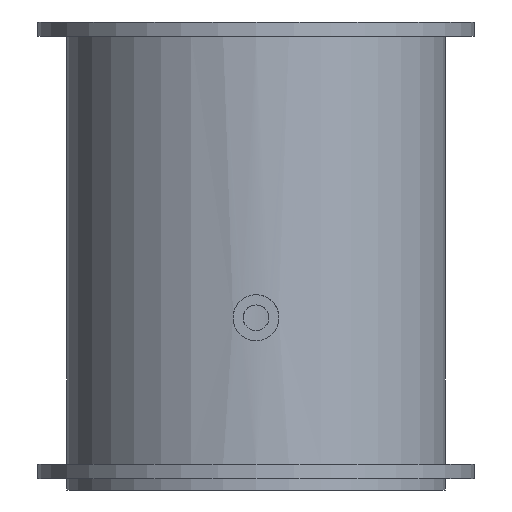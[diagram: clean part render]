
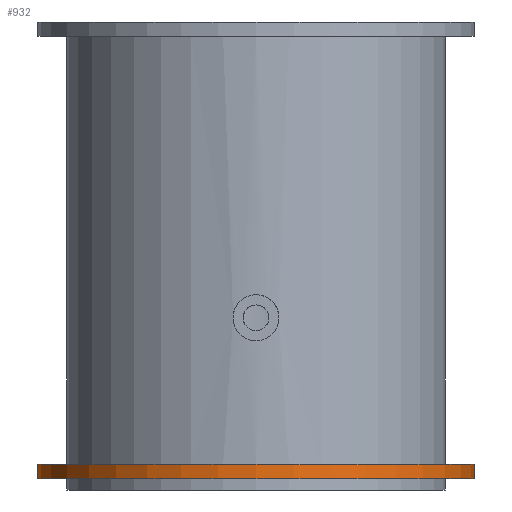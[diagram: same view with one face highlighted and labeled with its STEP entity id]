
A CAD part, front view. The second image highlights one B-rep face of the part: STEP entity #932.
In plain terms, the highlighted cylindrical face has radius 76 mm (diameter 152 mm), a full revolution.
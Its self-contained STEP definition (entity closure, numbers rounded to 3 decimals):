
#93 = PLANE('',#94);
#94 = AXIS2_PLACEMENT_3D('',#95,#96,#97);
#95 = CARTESIAN_POINT('',(0.,0.,44.));
#96 = DIRECTION('',(0.,0.,1.));
#97 = DIRECTION('',(1.,0.,-0.));
#148 = EDGE_CURVE('',#149,#149,#151,.T.);
#149 = VERTEX_POINT('',#150);
#150 = CARTESIAN_POINT('',(76.,0.,44.));
#151 = SURFACE_CURVE('',#152,(#157,#164),.PCURVE_S1.);
#152 = CIRCLE('',#153,76.);
#153 = AXIS2_PLACEMENT_3D('',#154,#155,#156);
#154 = CARTESIAN_POINT('',(0.,0.,44.));
#155 = DIRECTION('',(0.,0.,1.));
#156 = DIRECTION('',(1.,0.,0.));
#157 = PCURVE('',#93,#158);
#158 = DEFINITIONAL_REPRESENTATION('',(#159),#163);
#159 = CIRCLE('',#160,76.);
#160 = AXIS2_PLACEMENT_2D('',#161,#162);
#161 = CARTESIAN_POINT('',(0.,0.));
#162 = DIRECTION('',(1.,0.));
#163 = ( GEOMETRIC_REPRESENTATION_CONTEXT(2) 
PARAMETRIC_REPRESENTATION_CONTEXT() REPRESENTATION_CONTEXT('2D SPACE',''
  ) );
#164 = PCURVE('',#165,#170);
#165 = CYLINDRICAL_SURFACE('',#166,76.);
#166 = AXIS2_PLACEMENT_3D('',#167,#168,#169);
#167 = CARTESIAN_POINT('',(0.,0.,44.));
#168 = DIRECTION('',(-0.,-0.,-1.));
#169 = DIRECTION('',(1.,0.,0.));
#170 = DEFINITIONAL_REPRESENTATION('',(#171),#175);
#171 = LINE('',#172,#173);
#172 = CARTESIAN_POINT('',(-0.,0.));
#173 = VECTOR('',#174,1.);
#174 = DIRECTION('',(-1.,0.));
#175 = ( GEOMETRIC_REPRESENTATION_CONTEXT(2) 
PARAMETRIC_REPRESENTATION_CONTEXT() REPRESENTATION_CONTEXT('2D SPACE',''
  ) );
#932 = ADVANCED_FACE('',(#933),#165,.T.);
#933 = FACE_BOUND('',#934,.F.);
#934 = EDGE_LOOP('',(#935,#958,#985,#986));
#935 = ORIENTED_EDGE('',*,*,#936,.T.);
#936 = EDGE_CURVE('',#149,#937,#939,.T.);
#937 = VERTEX_POINT('',#938);
#938 = CARTESIAN_POINT('',(76.,0.,49.));
#939 = SEAM_CURVE('',#940,(#944,#951),.PCURVE_S1.);
#940 = LINE('',#941,#942);
#941 = CARTESIAN_POINT('',(76.,0.,44.));
#942 = VECTOR('',#943,1.);
#943 = DIRECTION('',(0.,0.,1.));
#944 = PCURVE('',#165,#945);
#945 = DEFINITIONAL_REPRESENTATION('',(#946),#950);
#946 = LINE('',#947,#948);
#947 = CARTESIAN_POINT('',(-0.,0.));
#948 = VECTOR('',#949,1.);
#949 = DIRECTION('',(-0.,-1.));
#950 = ( GEOMETRIC_REPRESENTATION_CONTEXT(2) 
PARAMETRIC_REPRESENTATION_CONTEXT() REPRESENTATION_CONTEXT('2D SPACE',''
  ) );
#951 = PCURVE('',#165,#952);
#952 = DEFINITIONAL_REPRESENTATION('',(#953),#957);
#953 = LINE('',#954,#955);
#954 = CARTESIAN_POINT('',(-6.283,0.));
#955 = VECTOR('',#956,1.);
#956 = DIRECTION('',(-0.,-1.));
#957 = ( GEOMETRIC_REPRESENTATION_CONTEXT(2) 
PARAMETRIC_REPRESENTATION_CONTEXT() REPRESENTATION_CONTEXT('2D SPACE',''
  ) );
#958 = ORIENTED_EDGE('',*,*,#959,.T.);
#959 = EDGE_CURVE('',#937,#937,#960,.T.);
#960 = SURFACE_CURVE('',#961,(#966,#973),.PCURVE_S1.);
#961 = CIRCLE('',#962,76.);
#962 = AXIS2_PLACEMENT_3D('',#963,#964,#965);
#963 = CARTESIAN_POINT('',(0.,0.,49.));
#964 = DIRECTION('',(0.,0.,1.));
#965 = DIRECTION('',(1.,0.,0.));
#966 = PCURVE('',#165,#967);
#967 = DEFINITIONAL_REPRESENTATION('',(#968),#972);
#968 = LINE('',#969,#970);
#969 = CARTESIAN_POINT('',(-0.,-5.));
#970 = VECTOR('',#971,1.);
#971 = DIRECTION('',(-1.,0.));
#972 = ( GEOMETRIC_REPRESENTATION_CONTEXT(2) 
PARAMETRIC_REPRESENTATION_CONTEXT() REPRESENTATION_CONTEXT('2D SPACE',''
  ) );
#973 = PCURVE('',#974,#979);
#974 = PLANE('',#975);
#975 = AXIS2_PLACEMENT_3D('',#976,#977,#978);
#976 = CARTESIAN_POINT('',(0.,0.,49.));
#977 = DIRECTION('',(0.,0.,1.));
#978 = DIRECTION('',(1.,0.,-0.));
#979 = DEFINITIONAL_REPRESENTATION('',(#980),#984);
#980 = CIRCLE('',#981,76.);
#981 = AXIS2_PLACEMENT_2D('',#982,#983);
#982 = CARTESIAN_POINT('',(0.,0.));
#983 = DIRECTION('',(1.,0.));
#984 = ( GEOMETRIC_REPRESENTATION_CONTEXT(2) 
PARAMETRIC_REPRESENTATION_CONTEXT() REPRESENTATION_CONTEXT('2D SPACE',''
  ) );
#985 = ORIENTED_EDGE('',*,*,#936,.F.);
#986 = ORIENTED_EDGE('',*,*,#148,.F.);
